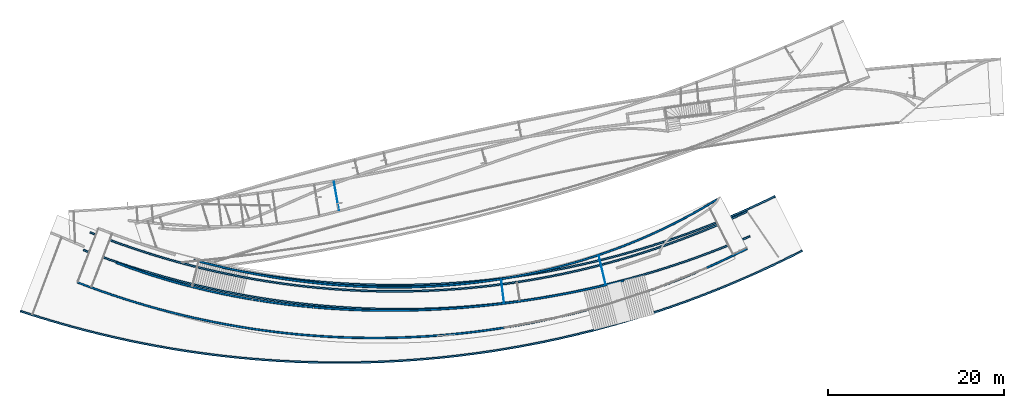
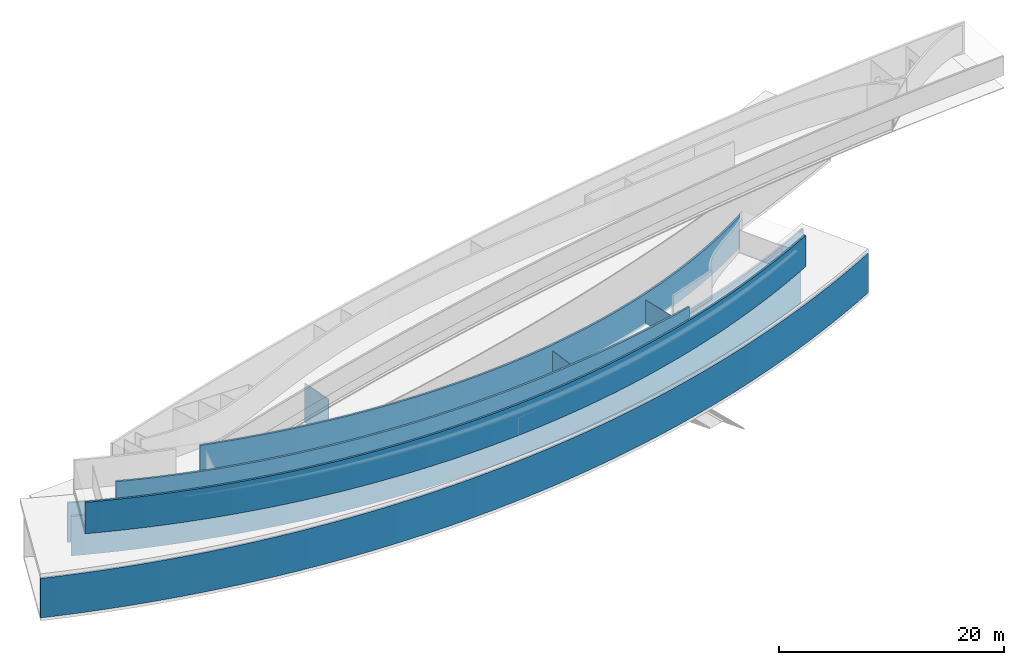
# Not in any storey, part 5 of 16: 10 walls.
"""IFC2X3 model written with IfcOpenShell, lengths in millimetres."""

from ifc_helpers import new_model, entity, si_unit, converted_unit, point, direction, frame, frame_2d, origin_with_axes, place, context, project, spatial, polyline, circle_curve, trimmed, segment, composite_curve, outline, extrude, material, layer, layer_set, layer_usage, type_object, element, save


model = new_model("IFC2X3")

# Units and contexts
model_context = context("Model", 3, precision=1.0, world=origin_with_axes(), true_north=direction((0.0, 1.0)))
ifc_project = project(units=[converted_unit("PLANEANGLEUNIT", "DEGREE", entity("IfcRatioMeasure", 0.017453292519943), si_unit("PLANEANGLEUNIT", "RADIAN"), dimensions=[0, 0, 0, 0, 0, 0, 0]), si_unit("LENGTHUNIT", "METRE", prefix="MILLI")], contexts=[model_context])

# Site
site_placement = place(None, origin_with_axes())
site = spatial("IfcSite", under=ifc_project, at=site_placement, Name="Site", CompositionType="ELEMENT")

# Walls
ifc_material_1 = material(Name="Wall layer 1")
ifc_layer_1 = layer(ifc_material_1, 200.0)
ifc_layer_set_1 = layer_set([ifc_layer_1], Name="HOKI 350")
ifc_layer_usage_1 = layer_usage(ifc_layer_set_1, "AXIS2", "POSITIVE", -100.0)
wall_type_1 = type_object("IfcWallType", Name="HOKI 350", PredefinedType="STANDARD", material=ifc_layer_set_1)
wall_1_placement = place(site_placement, frame((-59559.4514316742, -14139.4717209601, 4720.0), z_axis=(0.0, 0.0, 1.0), x_axis=(0.949083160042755, -0.315025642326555, 0.0)))
element("IfcWallStandardCase", 1, at=wall_1_placement, inside=site, type_object=wall_type_1, material=ifc_layer_usage_1, ObjectType="HOKI 350", context=model_context, shape_type="SweptSolid", body=[
    extrude(outline(composite_curve([segment(polyline([(82177.402617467, 34509.1537516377), (82034.6095633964, 34649.1899744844)]), True, "CONTINUOUS"), segment(trimmed(circle_curve(frame_2d((7.276e-12, 115099.999999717), x_axis=(0.713965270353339, -0.700181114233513)), 114899.999999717), [point((82034.6095633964, 34649.1899744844))], [point((-2.9104e-11, 199.999999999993))], False, "CARTESIAN"), True, "CONTINUOUS"), segment(polyline([(-7.276e-12, 200.000000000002), (0.0, 0.0)]), True, "CONTINUOUS"), segment(trimmed(circle_curve(frame_2d((-1.05501e-10, 115099.999999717), x_axis=(1e-15, -1.0)), 115099.999999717), [point((0.0, 0.0))], [point((82177.402617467, 34509.1537516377))], True, "CARTESIAN"), True, "CONTINUOUS")], self_intersect="UNKNOWN")), origin_with_axes(), (0.0, 0.0, 1.0), 4280.0),
])
wall_2_placement = place(site_placement, frame((23261.8570377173, -5462.66677642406, 4720.0), z_axis=(0.0, 0.0, 1.0), x_axis=(-0.916614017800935, -0.399773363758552, 0.0)))
element("IfcWallStandardCase", 2, at=wall_2_placement, inside=site, type_object=wall_type_1, material=ifc_layer_usage_1, ObjectType="HOKI 350", context=model_context, shape_type="SweptSolid", body=[
    extrude(outline(composite_curve([segment(polyline([(69911.8155104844, -28798.7731235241), (70052.6840427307, -28656.8010959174)]), True, "CONTINUOUS"), segment(trimmed(circle_curve(frame_2d((-3.638e-12, -99258.2436909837), x_axis=(0.704342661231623, 0.709860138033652)), 99458.2436909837), [point((70052.6840427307, -28656.8010959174))], [point((-7.276e-12, 200.000000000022))], True, "CARTESIAN"), True, "CONTINUOUS"), segment(polyline([(-5.451e-12, 200.000000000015), (0.0, 0.0)]), True, "CONTINUOUS"), segment(trimmed(circle_curve(frame_2d((-9.4587e-11, -99258.2436909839), x_axis=(0.0, 1.0)), 99258.2436909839), [point((0.0, 0.0))], [point((69911.8155104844, -28798.7731235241))], False, "CARTESIAN"), True, "CONTINUOUS")], self_intersect="UNKNOWN")), origin_with_axes(), (0.0, 0.0, 1.0), 4280.0),
])
wall_3_placement = place(site_placement, frame((19701.3034561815, -1168.23470234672, 9600.00525845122), z_axis=(0.0, 0.0, 1.0), x_axis=(-0.846717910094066, -0.532042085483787, 0.0)))
element("IfcWallStandardCase", 3, at=wall_3_placement, inside=site, type_object=wall_type_1, material=ifc_layer_usage_1, ObjectType="HOKI 350", context=model_context, shape_type="SweptSolid", body=[
    extrude(outline(composite_curve([segment(polyline([(84.0886947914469, -0.057805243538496), (192.361940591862, 68.7773526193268), (250.643789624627, 104.075943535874), (311.306162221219, 137.412856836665), (374.355856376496, 168.84275392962), (439.799670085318, 198.42029622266)]), True, "CONTINUOUS"), segment(polyline([(439.799670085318, 198.42029622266), (862.873373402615, 193.925355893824), (1286.65458545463, 186.506438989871), (1711.12188678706, 176.157296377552), (2136.25385794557, 162.871678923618), (2562.02907947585, 146.643337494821), (2988.42613192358, 127.466022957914), (3415.42359583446, 105.333486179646), (3843.00005175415, 80.2394780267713), (4271.13408022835, 52.17774936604), (4699.80426180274, 21.1420510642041), (5128.98917702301, -12.8738660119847), (5558.66740643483, -49.8762509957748), (5988.81753058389, -89.8713530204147), (6419.41813001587, -132.865421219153), (6850.44778527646, -178.864704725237), (7281.88507691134, -227.875452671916), (7713.7085854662, -279.903914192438), (8145.89689148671, -334.956338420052), (8578.42857551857, -393.038974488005), (9011.28221810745, -454.158071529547), (9444.43639979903, -518.319878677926), (9877.86970113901, -585.530645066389), (10311.5607026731, -655.796619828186), (10745.4879849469, -729.124052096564), (11179.6301285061, -805.519191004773), (11613.9657138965, -884.98828568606), (12048.4733216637, -967.537585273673), (12483.1315323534, -1053.17333890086), (12917.9189265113, -1141.90179570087), (13352.814084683, -1233.72920480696), (13787.7955874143, -1328.66181535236), (14222.8420152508, -1426.70587647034), (14672.0898917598, -1531.21231949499), (15121.4119971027, -1639.05529227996), (15570.7825753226, -1750.23059121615), (16020.1758704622, -1864.73401269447), (16469.5661265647, -1982.56135310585), (16918.9275876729, -2103.70840884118), (17368.2344978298, -2228.17097629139), (17817.4611010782, -2355.94485184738), (18266.5816414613, -2487.02583190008), (18715.5703630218, -2621.40971284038), (19164.4015098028, -2759.09229105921), (19613.0493258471, -2900.06936294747), (20061.4880551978, -3044.33672489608), (20509.6919418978, -3191.89017329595), (20957.63522999, -3342.72550453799), (21405.2921635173, -3496.83851501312), (21852.6369865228, -3654.22500111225), (22299.6439430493, -3814.88075922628), (22746.2872771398, -3978.80158574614), (23192.5412328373, -4145.98327706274), (23638.3800541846, -4316.42162956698), (24083.7779852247, -4490.11243964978), (24528.7092700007, -4667.05150370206), (24973.1481525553, -4847.23461811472), (25417.0688769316, -5030.65757927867), (25860.4456871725, -5217.31618358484), (26303.2528273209, -5407.20622742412), (26745.4645414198, -5600.32350718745), (27187.0550735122, -5796.66381926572), (27627.998667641, -5996.22296004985), (28068.269567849, -6198.99672593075), (28507.8420181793, -6404.98091329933), (28946.6917659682, -6614.17031313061), (29384.8390270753, -6826.57267076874), (29822.2601124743, -7042.17266502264), (30258.9313331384, -7260.95497470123), (30694.8290000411, -7482.90427861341), (31129.9294241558, -7708.0052555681), (31564.2089164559, -7936.24258437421), (31997.6437879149, -8167.60094384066), (32430.2103495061, -8402.06501277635), (32861.884912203, -8639.61946999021), (33292.643786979, -8880.24899429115), (33722.4632848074, -9123.93826448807), (34151.3197166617, -9370.67195938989), (34579.1893935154, -9620.43475780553), (35006.0486263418, -9873.2113385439), (35431.8737261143, -10128.9863804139), (35856.6410038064, -10387.7445622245), (36280.3267703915, -10649.4705627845), (36702.907336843, -10914.1490609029), (37124.3590141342, -11181.7647353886), (37544.6581132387, -11452.3022650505), (37963.7809451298, -11725.7463286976), (38381.7038207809, -12002.0816051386), (38798.4030511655, -12281.2927731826), (39213.8549472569, -12563.3645116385), (39628.0358200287, -12848.2814993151), (40040.9219804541, -13136.0284150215), (40452.4897395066, -13426.5899375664), (40862.7154081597, -13719.9507457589), (41271.5752973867, -14016.0955184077), (41679.0457181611, -14315.0089343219), (42085.1029814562, -14616.6756723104), (42489.7312971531, -14921.0821821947), (42892.9427636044, -15228.2272663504), (43294.7195900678, -15538.0872674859), (43695.043985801, -15850.63852831), (44093.8981600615, -16165.8573915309), (44491.2643221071, -16483.7201998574), (44887.1246811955, -16804.2032959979), (45281.4614465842, -17127.2830226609), (45674.2568275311, -17452.9357225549), (46065.4930332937, -17781.1377383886), (46455.1522731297, -18111.8654128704), (46843.2167562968, -18445.0950887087), (47229.6686920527, -18780.8031086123), (47614.490289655, -19118.9658152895), (47997.6637583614, -19459.559551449), (48379.1713074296, -19802.5606597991), (48758.9951461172, -20147.9454830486), (49137.117483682, -20495.6903639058), (49513.5205293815, -20845.7716450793), (49888.1864924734, -21198.1656692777), (50261.0975822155, -21552.8487792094), (50632.2360078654, -21909.797317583), (51001.5839786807, -22268.987627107), (51369.1237039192, -22630.39605049), (51734.8373928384, -22993.9989304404), (52098.7072546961, -23359.7726096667), (52460.71549875, -23727.6934308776), (52820.8443342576, -24097.7377367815), (53179.0759704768, -24469.881870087), (53535.392616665, -24844.1021735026), (53889.7764820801, -25220.3749897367), (54242.2097759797, -25598.676661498)]), True, "CONTINUOUS"), segment(polyline([(54242.2097759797, -25598.676661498), (54095.5040734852, -25734.6083975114)]), True, "CONTINUOUS"), segment(polyline([(54095.5040734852, -25734.6083975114), (53743.6470536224, -25356.9219379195), (53389.8811939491, -24981.2961584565), (53034.2218277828, -24607.7524543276), (52676.6842884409, -24236.3122207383), (52317.283909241, -23866.9968528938), (51956.0360235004, -23499.8277459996), (51592.9559645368, -23134.8262952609), (51228.0590656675, -22772.0138958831), (50861.36066021, -22411.4119430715), (50492.8760814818, -22053.0418320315), (50122.6206628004, -21696.9249579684), (49750.6097374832, -21343.0827160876), (49376.8586388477, -20991.5365015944), (49001.3827002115, -20642.3077096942), (48624.1972548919, -20295.4177355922), (48245.3176362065, -19950.8879744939), (47864.7591774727, -19608.7398216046), (47482.537212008, -19268.9946721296), (47098.6670731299, -18931.6739212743), (46713.1640941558, -18596.798964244), (46326.0436084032, -18264.3911962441), (45937.3209491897, -17934.4720124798), (45547.0114498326, -17607.0628081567), (45155.1304436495, -17282.1849784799), (44761.6932639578, -16959.8599186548), (44366.715244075, -16640.1090238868), (43970.2117173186, -16322.9536893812), (43572.198017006, -16008.4153103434), (43172.6894764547, -15696.5152819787), (42771.7014289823, -15387.2749994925), (42369.2492079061, -15080.71585809), (41965.3481465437, -14776.8592529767), (41560.0520884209, -14475.7545101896), (41153.3943918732, -14177.4277116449), (40745.3955968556, -13881.892251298), (40336.0762433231, -13589.1615231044), (39925.4568712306, -13299.2489210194), (39513.5580205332, -13012.1678389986), (39100.4002311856, -12727.9316709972), (38686.0040431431, -12446.5538109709), (38270.3899963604, -12168.0476528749), (37853.5786307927, -11892.4265906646), (37435.5904863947, -11619.7040182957), (37016.4461031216, -11349.8933297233), (36596.1660209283, -11083.007918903), (36174.7707797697, -10819.0611797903), (35752.2809196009, -10558.0665063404), (35328.7169803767, -10300.0372925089), (34904.0995020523, -10044.9869322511), (34478.4490245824, -9792.92881952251), (34051.7860879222, -9543.87634827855), (33624.1312320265, -9297.84291247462), (33195.5049968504, -9054.84190606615), (32765.9279223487, -8814.88672300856), (32335.4205484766, -8577.99075725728), (31904.0034151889, -8344.16740276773), (31471.6970624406, -8113.43005349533), (31038.5220301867, -7885.79210339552), (30604.4988583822, -7661.26694642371), (30169.648086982, -7439.86797653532), (29733.990255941, -7221.60858768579), (29297.5459052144, -7006.50217383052), (28860.335574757, -6794.56212892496), (28422.3798045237, -6585.80184692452), (27983.7526650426, -6380.25697087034), (27544.4861007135, -6177.93577717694), (27104.6020981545, -5978.84115899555), (26664.1226439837, -5782.97600947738), (26223.0697248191, -5590.34322177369), (25781.4653272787, -5400.94568903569), (25339.3314379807, -5214.7863044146), (24896.6900435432, -5031.86796106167), (24453.563130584, -4852.19355212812), (24009.9726857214, -4675.76597076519), (23565.9406955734, -4502.58811012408), (23121.489146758, -4332.66286335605), (22676.6400258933, -4165.99312361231), (22231.4153195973, -4002.5817840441), (21785.8370144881, -3842.43173780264), (21339.9270971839, -3685.54587803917), (20893.7075543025, -3531.92709790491), (20447.2003724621, -3381.57829055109), (20000.4275382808, -3234.50234912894), (19553.4110383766, -3090.7021667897), (19106.1728593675, -2950.18063668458), (18658.7349878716, -2812.94065196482), (18211.1194105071, -2678.98510578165), (17763.3481138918, -2548.31689128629), (17315.443084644, -2420.93890162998), (16867.4263093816, -2296.85402996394), (16419.3197747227, -2176.06516943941), (15971.1454672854, -2058.57521320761), (15522.9253736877, -1944.38705441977), (15074.6814805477, -1833.50358622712), (14626.4357744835, -1725.92770178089), (14178.210242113, -1621.66229423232), (13732.7978009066, -1521.32020358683), (13287.5150724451, -1424.25429128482), (12842.3811573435, -1330.45737142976), (12397.4151562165, -1239.92225812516), (11952.636169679, -1152.64176547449), (11508.063298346, -1068.60870758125), (11063.7156428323, -987.815898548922), (10619.6123037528, -910.256152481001), (10175.7723817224, -835.922283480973), (9732.21497735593, -764.807105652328), (9288.95919126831, -696.903433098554), (8846.0241240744, -632.204079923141), (8403.4288763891, -570.701860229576), (7961.19254882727, -512.389588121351), (7519.33424200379, -457.260077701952), (7077.87305653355, -405.30614307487), (6636.82809303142, -356.520598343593), (6196.21845211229, -310.896257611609), (5756.06323439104, -268.425934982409), (5316.38154048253, -229.102444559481), (4877.19247100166, -192.918600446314), (4438.5151265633, -159.867216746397), (4000.36860778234, -129.941107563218), (3562.77201527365, -103.133087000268), (3125.7444496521, -79.4359691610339), (2689.30501153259, -58.8425681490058), (2253.47280152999, -41.3456980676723), (1818.26692025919, -26.9381730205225), (1383.70646833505, -15.6128071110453), (949.810546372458, -7.36241444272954), (516.598254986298, -2.1798091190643), (84.0886947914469, -0.057805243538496)]), True, "CONTINUOUS")], self_intersect="UNKNOWN")), origin_with_axes(), (0.0, 0.0, 1.0), 3400.0),
])
wall_4_placement = place(site_placement, frame((-48588.4889031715, -8461.80416343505, 9849.99645367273), z_axis=(0.0, 0.0, 1.0), x_axis=(0.932215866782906, -0.361902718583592, 0.0)))
element("IfcWallStandardCase", 4, at=wall_4_placement, inside=site, type_object=wall_type_1, material=ifc_layer_usage_1, ObjectType="HOKI 350", context=model_context, shape_type="SweptSolid", body=[
    extrude(outline(composite_curve([segment(polyline([(54498.8924587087, 18771.4000939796), (54382.2723933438, 18933.8801246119)]), True, "CONTINUOUS"), segment(polyline([(54382.2723933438, 18933.8801246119), (54004.5611779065, 18664.0176281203), (53625.0991825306, 18395.3816664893), (53243.9065766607, 18127.9921042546), (52861.0035297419, 17861.8688059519), (52476.4102112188, 17597.0316361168), (52090.1467905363, 17333.5004592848), (51702.2334371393, 17071.2951399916), (51312.6903204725, 16810.4355427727), (50921.5376099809, 16550.9415321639), (50528.7954751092, 16292.8329727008), (50134.4840853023, 16036.1297289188), (49738.6236100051, 15780.8516653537), (49341.2342186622, 15527.0186465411), (48942.3360807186, 15274.6505370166), (48541.9493656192, 15023.7672013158), (48140.0942428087, 14774.3885039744), (47736.7908817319, 14526.5343095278), (47332.0594518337, 14280.2244825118), (46925.920122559, 14035.478887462), (46518.3930633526, 13792.317388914), (46109.4984436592, 13550.7598514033), (45699.2564329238, 13310.8261394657), (45287.6872005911, 13072.5361176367), (44874.810916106, 12835.909650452), (44460.6477489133, 12600.9666024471), (44045.2178684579, 12367.7268381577), (43628.5414441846, 12136.2102221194), (43210.6386455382, 11906.4366188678), (42791.5296419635, 11678.4258929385), (42371.2346029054, 11452.1979088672), (41949.7736978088, 11227.7725311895), (41527.1670961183, 11005.1696244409), (41103.4578924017, 10784.4217040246), (40678.6969861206, 10565.5592546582), (40252.9109702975, 10348.596326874), (39826.1264379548, 10133.5469712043), (39398.3699821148, 9920.42523818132), (38969.6681957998, 9709.24517833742), (38540.0476720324, 9500.02084220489), (38109.5350038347, 9292.76628031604), (37678.1567842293, 9087.49554320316), (37245.9396062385, 8884.22268139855), (36812.9100628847, 8682.96174543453), (36379.0947471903, 8483.72678584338), (35944.5202521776, 8286.53185315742), (35509.213170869, 8091.39099790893), (35073.2000962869, 7898.31827063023), (34636.5076214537, 7707.32772185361), (34199.1623393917, 7518.43340211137), (33761.1908431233, 7331.64936193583), (33322.619725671, 7146.98965185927), (32883.475580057, 6964.468322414), (32443.7849993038, 6784.09942413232), (32003.5745764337, 6605.89700754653), (31562.8709044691, 6429.87512318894), (31121.7005764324, 6256.04782159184), (30680.090185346, 6084.42915328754), (30238.0663242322, 5915.03316880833), (29795.6555861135, 5747.87391868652), (29352.8845640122, 5582.96545345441), (28909.7798509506, 5420.32182364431), (28466.3680399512, 5259.9570797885), (28022.6757240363, 5101.8852724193), (27578.7294962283, 4946.120452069), (27134.5973316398, 4792.68927219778), (26690.320929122, 4641.6028755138), (26245.9275225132, 4492.86599215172), (25801.4443456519, 4346.48335224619), (25356.8986323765, 4202.45968593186), (24912.3176165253, 4060.79972334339), (24467.7285319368, 3921.50819461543), (24023.1586124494, 3784.58982988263), (23578.6350919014, 3650.04935927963), (23134.1852041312, 3517.8915129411), (22689.8361829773, 3388.12102100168), (22245.6152622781, 3260.74261359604), (21801.5496758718, 3135.7610208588), (21357.666657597, 3013.18097292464), (20913.993441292, 2893.0071999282), (20470.5572607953, 2775.24443200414), (20027.3853499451, 2659.8973992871), (19584.50494258, 2546.97083191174), (19141.9432725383, 2436.4694600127), (18699.7275736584, 2328.39801372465), (18257.8850797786, 2222.76122318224), (17816.4430247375, 2119.5638185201), (17375.4286423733, 2018.81052987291), (16934.8691665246, 1920.5060873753), (16494.7918310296, 1824.65522116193), (16055.2238697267, 1731.26266136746), (15616.1925164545, 1640.33313812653), (15177.7250050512, 1551.8713815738), (14739.8485693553, 1465.88212184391), (14302.5904432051, 1382.37008907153), (13865.9778604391, 1301.3400133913), (13430.0380548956, 1222.79662493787), (12994.8517189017, 1146.74256619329), (12560.45271831, 1073.16769250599), (12126.8601519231, 1002.06857410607), (11694.0931185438, 933.44178122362), (11262.1707169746, 867.283884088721), (10831.1120460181, 803.591452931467), (10400.9362044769, 742.361057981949), (9971.66229115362, 683.589269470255), (9543.30940485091, 627.272657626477), (9115.89664437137, 573.407792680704), (8689.44310851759, 521.991244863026), (8263.9678960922, 473.019584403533), (7839.49010589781, 426.489381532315), (7416.02883673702, 382.397206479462), (6993.60318741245, 340.739629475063), (6572.23225672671, 301.51322074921), (6152.00668237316, 264.719767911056), (5732.97303644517, 230.354602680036), (5315.14622166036, 198.410202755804), (4898.54114073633, 168.87904583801), (4483.1726963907, 141.753609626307), (4069.05579134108, 117.026371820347), (3656.20532830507, 94.689810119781), (3244.63621000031, 74.7364022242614), (2834.36333914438, 57.15862583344), (2425.40161845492, 41.9489586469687), (2017.76595064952, 29.0998783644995), (1611.47123844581, 18.6038626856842), (1206.53238456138, 10.4533893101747), (802.964291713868, 4.64093593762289), (400.781862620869, 1.1589802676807), (0.0, 0.0)]), True, "CONTINUOUS"), segment(polyline([(0.0, 0.0), (0.0, -200.0)]), True, "CONTINUOUS"), segment(polyline([(0.0, -200.0), (401.676204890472, -198.836369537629), (804.845250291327, -195.340858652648), (1209.47903584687, -189.506538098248), (1615.54946120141, -181.326478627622), (2023.02842599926, -170.793750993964), (2431.88782988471, -157.901425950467), (2842.09957250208, -142.642574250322), (3253.63555349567, -125.010266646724), (3666.46767250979, -104.997573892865), (4080.56782918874, -82.5975667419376), (4495.90792317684, -57.8033159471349), (4912.45985411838, -30.60789226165), (5330.19552165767, -1.0043664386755), (5749.08682543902, 31.0141907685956), (6169.10566510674, 65.4547086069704), (6590.22394030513, 102.324116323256), (7012.44291692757, 141.631349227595), (7435.80284106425, 183.38562683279), (7860.27218033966, 227.588713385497), (8285.81940237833, 274.242373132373), (8712.41297480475, 323.348370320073), (9140.02136524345, 374.908469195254), (9568.61304131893, 428.924434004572), (9998.15647065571, 485.398028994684), (10428.6201208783, 544.331018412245), (10859.9724596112, 605.725166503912), (11292.1819544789, 669.582237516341), (11725.217073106, 735.903995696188), (12159.0462831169, 804.69220529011), (12593.6380521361, 875.948630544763), (13028.9608477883, 949.675035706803), (13464.9831376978, 1025.87318502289), (13901.6908280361, 1104.55662900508), (14339.1122056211, 1185.74143614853), (14777.2172043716, 1269.42212687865), (15215.9757582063, 1355.59322162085), (15655.357801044, 1444.24924080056), (16095.3332668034, 1535.38470484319), (16535.8720894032, 1628.99413417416), (16976.9442027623, 1725.07204921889), (17418.5195407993, 1823.6129704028), (17860.568037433, 1924.6114181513), (18303.0596265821, 2028.06191288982), (18745.9642421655, 2133.95897504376), (19189.2518181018, 2242.29712503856), (19632.8922883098, 2353.07088329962), (20076.8555867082, 2466.27477025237), (20521.1116472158, 2581.90330632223), (20965.6304037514, 2699.9510119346), (21410.3817902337, 2820.41240751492), (21855.3357405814, 2943.28201348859), (22300.4621887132, 3068.55435028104), (22745.731068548, 3196.22393831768), (23191.1123140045, 3326.28529802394), (23636.5758590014, 3458.73294982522), (24082.0916374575, 3593.56141414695), (24527.6295832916, 3730.76521141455), (24973.1596304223, 3870.33886205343), (25418.6517127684, 4012.27688648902), (25864.0757642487, 4156.57380514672), (26309.4017187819, 4303.22413845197), (26754.5995102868, 4452.22240683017), (27199.6390726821, 4603.56313070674), (27644.4903398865, 4757.24083050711), (28089.1243051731, 4913.24851433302), (28533.5393269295, 5071.58204638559), (28977.7063315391, 5232.22628550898), (29421.5962453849, 5395.16609054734), (29865.17999485, 5560.38632034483), (30308.4285063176, 5727.8718337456), (30751.3127061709, 5897.60748959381), (31193.803520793, 6069.57814673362), (31635.871876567, 6243.76866400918), (32077.4886998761, 6420.16390026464), (32518.6249171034, 6598.74871434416), (32959.2514546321, 6779.5079650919), (33399.3392388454, 6962.42651135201), (33838.8591961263, 7147.48921196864), (34277.782252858, 7334.68092578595), (34716.0793354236, 7523.9865116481), (35153.7213702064, 7715.39082839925), (35590.6792835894, 7908.87873488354), (36026.9240019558, 8104.43508994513), (36462.4264516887, 8302.04475242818), (36897.1575591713, 8501.69258117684), (37331.0882507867, 8703.36343503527), (37764.1894529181, 8907.04217284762), (38196.4320919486, 9112.71365345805), (38627.7870942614, 9320.36273571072), (39058.2253862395, 9529.97427844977), (39487.7178942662, 9741.53314051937), (39916.2355447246, 9955.02418076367), (40343.7492639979, 10170.4322580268), (40770.2299784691, 10387.742231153), (41195.6486145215, 10606.9389589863), (41619.9760985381, 10828.007300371), (42043.1996702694, 11050.9367273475), (42465.3075308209, 11275.7108079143), (42886.2773323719, 11502.3083128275), (43306.0867271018, 11730.7080128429), (43724.7133671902, 11960.8886787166), (44142.1349048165, 12192.8290812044), (44558.32899216, 12426.5079910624), (44973.2732814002, 12661.9041790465), (45386.9454247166, 12898.9964159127), (45799.3230742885, 13137.7634724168), (46210.3838822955, 13378.184119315), (46620.1055009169, 13620.237127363), (47028.4655823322, 13863.9012673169), (47435.4417787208, 14109.1553099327), (47841.0117422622, 14355.9780259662), (48245.1531251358, 14604.3481861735), (48647.843579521, 14854.2445613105), (49049.0607575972, 15105.6459221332), (49448.782311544, 15358.5310393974), (49846.9858935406, 15612.8786838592), (50243.6491557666, 15868.6676262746), (50638.7497504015, 16125.8766373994), (51032.2653296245, 16384.4844879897), (51424.1735456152, 16644.4699488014), (51814.452050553, 16905.8117905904), (52203.0784966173, 17168.4887841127), (52590.0305359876, 17432.4797001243), (52975.2858208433, 17697.7633093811), (53358.8220033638, 17964.3183826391), (53740.6167357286, 18232.1236906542), (54120.6476701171, 18501.1580041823), (54498.8924587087, 18771.4000939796)]), True, "CONTINUOUS")], self_intersect="UNKNOWN")), origin_with_axes(), (0.0, 0.0, 1.0), 2500.0),
])
wall_5_placement = place(site_placement, frame((23048.6142671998, -2821.51672003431, 4720.0), z_axis=(0.0, 0.0, 1.0), x_axis=(-0.902152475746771, -0.431417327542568, 0.0)))
element("IfcWallStandardCase", 5, at=wall_5_placement, inside=site, type_object=wall_type_1, material=ifc_layer_usage_1, ObjectType="HOKI 350", context=model_context, shape_type="SweptSolid", body=[
    extrude(outline(composite_curve([segment(polyline([(68269.5730359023, -30209.7913044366), (68416.930486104, -30074.5663737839)]), True, "CONTINUOUS"), segment(trimmed(circle_curve(frame_2d((-2.5466e-11, -92858.4613705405), x_axis=(0.736787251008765, 0.676124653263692)), 92858.4613705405), [point((68416.930486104, -30074.5663737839))], [point((0.0, 0.0))], True, "CARTESIAN"), True, "CONTINUOUS"), segment(polyline([(0.0, 0.0), (3.52e-13, -199.999999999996)]), True, "CONTINUOUS"), segment(trimmed(circle_curve(frame_2d((-3.638e-11, -92858.4613705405), x_axis=(0.0, 1.0)), 92658.4613705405), [point((3.52e-13, -200.0))], [point((68269.5730359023, -30209.7913044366))], False, "CARTESIAN"), True, "CONTINUOUS")], self_intersect="UNKNOWN")), origin_with_axes(), (0.0, 0.0, 1.0), 4280.0),
])
wall_6_placement = place(site_placement, frame((-36539.9897893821, -9017.77797992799, 4720.0), z_axis=(0.0, 0.0, 1.0), x_axis=(0.979627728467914, -0.200822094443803, 0.0)))
element("IfcWallStandardCase", 6, at=wall_6_placement, inside=site, type_object=wall_type_1, material=ifc_layer_usage_1, ObjectType="HOKI 350", context=model_context, shape_type="SweptSolid", body=[
    extrude(outline(composite_curve([segment(polyline([(0.0, 0.0), (16.5493392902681, -47.1817694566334)]), True, "CONTINUOUS"), segment(trimmed(circle_curve(frame_2d((-84649.8707106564, 241334.751459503), x_axis=(0.330986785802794, -0.943635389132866)), 255800.000729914), [point((16.5493392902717, -47.1817694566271))], [point((151.278301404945, 0.117600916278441))], True, "CARTESIAN"), True, "CONTINUOUS"), segment(trimmed(circle_curve(frame_2d((-2.1828e-11, 97300.0000000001), x_axis=(0.001554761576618, -0.999998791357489)), 97300.0000000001), [point((151.27830140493, 0.117600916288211))], [point((59761.111865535, 20515.2390861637))], True, "CARTESIAN"), True, "CONTINUOUS"), segment(polyline([(59761.111865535, 20515.2390861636), (59883.9507388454, 20357.4081284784)]), True, "CONTINUOUS"), segment(trimmed(circle_curve(frame_2d((8.0036e-11, 97299.9999999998), x_axis=(0.614194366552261, -0.789154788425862)), 97499.9999999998), [point((59883.9507388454, 20357.4081284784))], [point((0.0, -200.0))], False, "CARTESIAN"), True, "CONTINUOUS"), segment(polyline([(3.638e-12, -200.000000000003), (0.0, 0.0)]), True, "CONTINUOUS")], self_intersect="UNKNOWN")), origin_with_axes(), (0.0, 0.0, 1.0), 4280.0),
])
wall_7_placement = place(site_placement, frame((23032.1962198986, -7043.70188535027, 9600.0), z_axis=(0.0, 0.0, 1.0), x_axis=(-0.891143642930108, -0.453721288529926, 0.0)))
element("IfcWallStandardCase", 7, at=wall_7_placement, inside=site, type_object=wall_type_1, material=ifc_layer_usage_1, ObjectType="HOKI 350", context=model_context, shape_type="SweptSolid", body=[
    extrude(outline(composite_curve([segment(polyline([(69415.8720613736, -31259.3141078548), (69564.7279910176, -31125.7398954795)]), True, "CONTINUOUS"), segment(trimmed(circle_curve(frame_2d((0.0, -93300.0000001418), x_axis=(0.745602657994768, 0.666390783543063)), 93300.0000001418), [point((69564.7279910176, -31125.7398954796))], [point((0.0, 0.0))], True, "CARTESIAN"), True, "CONTINUOUS"), segment(polyline([(0.0, 0.0), (3.638e-12, -200.000000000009)]), True, "CONTINUOUS"), segment(trimmed(circle_curve(frame_2d((-4.3656e-11, -93300.0000001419), x_axis=(0.0, 1.0)), 93100.0000001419), [point((3.638e-12, -200.000000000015))], [point((69415.8720613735, -31259.3141078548))], False, "CARTESIAN"), True, "CONTINUOUS")], self_intersect="UNKNOWN")), origin_with_axes(), (0.0, 0.0, 1.0), 3400.0),
])
ifc_material_2 = material(Name="Wall layer 1")
ifc_layer_2 = layer(ifc_material_2, 50.0)
ifc_layer_set_2 = layer_set([ifc_layer_2], Name="HOKI 50mm")
ifc_layer_usage_2 = layer_usage(ifc_layer_set_2, "AXIS2", "POSITIVE", -25.0)
wall_type_2 = type_object("IfcWallType", Name="HOKI 50mm", PredefinedType="STANDARD", material=ifc_layer_set_2)
wall_8_placement = place(site_placement, frame((-23365.0883925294, -2595.23979933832, 4500.0), z_axis=(0.0, 0.0, 1.0), x_axis=(-0.175862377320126, 0.984414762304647, 0.0)))
element("IfcWallStandardCase", 8, at=wall_8_placement, inside=site, type_object=wall_type_2, material=ifc_layer_usage_2, ObjectType="HOKI 50mm", context=model_context, shape_type="SweptSolid", body=[
    extrude(outline(composite_curve([segment(polyline([(3.97215857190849, -49.9999999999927), (-0.069030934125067, -1.819e-12)]), True, "CONTINUOUS"), segment(polyline([(-0.069030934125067, -1.819e-12), (3264.75956732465, -9.1e-14)]), True, "CONTINUOUS"), segment(polyline([(3264.75956732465, -9.1e-14), (3264.75956732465, -50.0000000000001)]), True, "CONTINUOUS"), segment(polyline([(3264.75956732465, -50.0000000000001), (3.97215857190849, -49.9999999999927)]), True, "CONTINUOUS")], self_intersect="UNKNOWN")), origin_with_axes(), (0.0, 0.0, 1.0), 4280.0),
])
wall_9_placement = place(site_placement, frame((-4921.84062429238, -10299.373634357, 9849.99645367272), z_axis=(0.0, 0.0, 1.0), x_axis=(0.120872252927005, -0.992668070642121, 0.0)))
element("IfcWallStandardCase", 9, at=wall_9_placement, inside=site, type_object=wall_type_2, material=ifc_layer_usage_2, ObjectType="HOKI 50mm", context=model_context, shape_type="SweptSolid", body=[
    extrude(outline(composite_curve([segment(polyline([(2796.6756913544, -4.55e-13), (2796.83802486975, -49.9999999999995)]), True, "CONTINUOUS"), segment(polyline([(2796.83802486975, -49.9999999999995), (201.698914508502, -50.0)]), True, "CONTINUOUS"), segment(polyline([(201.698914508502, -50.0), (199.761492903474, -4.55e-13)]), True, "CONTINUOUS"), segment(polyline([(199.761492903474, -4.55e-13), (2796.6756913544, -4.55e-13)]), True, "CONTINUOUS")], self_intersect="UNKNOWN")), origin_with_axes(), (0.0, 0.0, 1.0), 2500.0),
])
wall_10_placement = place(site_placement, frame((6159.32540084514, -7675.93694068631, 9849.99645367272), z_axis=(0.0, 0.0, 1.0), x_axis=(0.231477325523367, -0.972840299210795, 0.0)))
element("IfcWallStandardCase", 10, at=wall_10_placement, inside=site, type_object=wall_type_2, material=ifc_layer_usage_2, ObjectType="HOKI 50mm", context=model_context, shape_type="SweptSolid", body=[
    extrude(outline(composite_curve([segment(polyline([(3406.83528820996, 1.819e-12), (3406.79092629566, -49.9999999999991)]), True, "CONTINUOUS"), segment(polyline([(3406.79092629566, -49.9999999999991), (104.448193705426, -50.0000000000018)]), True, "CONTINUOUS"), segment(polyline([(104.448193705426, -50.0000000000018), (99.9116114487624, -2.274e-12)]), True, "CONTINUOUS"), segment(polyline([(99.9116114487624, -2.274e-12), (3406.83528820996, 1.819e-12)]), True, "CONTINUOUS")], self_intersect="UNKNOWN")), origin_with_axes(), (0.0, 0.0, 1.0), 2500.0),
])

save(model, "model.ifc")
